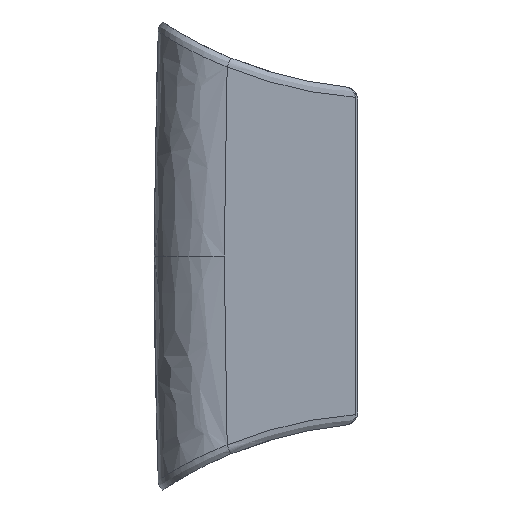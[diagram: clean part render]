
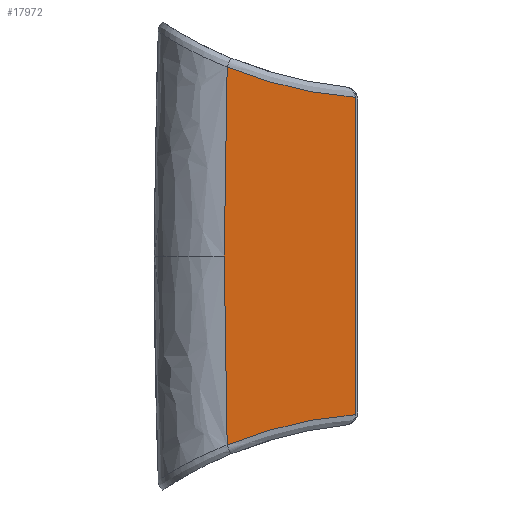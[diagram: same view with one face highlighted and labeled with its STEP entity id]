
A CAD part, left-side view. The second image highlights one B-rep face of the part: STEP entity #17972.
In plain terms, the highlighted planar face has unit normal (-0.999, 0.035, 0).
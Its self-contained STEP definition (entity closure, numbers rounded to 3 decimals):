
#395 = VERTEX_POINT ( 'NONE', #12723 ) ;
#474 = CARTESIAN_POINT ( 'NONE',  ( -47.783, 49.176, 46.767 ) ) ;
#612 = CARTESIAN_POINT ( 'NONE',  ( -49.466, 0.966, -90.375 ) ) ;
#861 = ORIENTED_EDGE ( 'NONE', *, *, #3372, .T. ) ;
#1297 = CARTESIAN_POINT ( 'NONE',  ( -48.343, 33.121, -64.511 ) ) ;
#2347 =( BOUNDED_CURVE ( )  B_SPLINE_CURVE ( 3, ( #4725, #474, #10978, #14156 ),
 .UNSPECIFIED., .F., .T. ) 
 B_SPLINE_CURVE_WITH_KNOTS ( ( 4, 4 ),
 ( 6.252, 6.283 ),
 .UNSPECIFIED. ) 
 CURVE ( )  GEOMETRIC_REPRESENTATION_ITEM ( )  RATIONAL_B_SPLINE_CURVE ( ( 1., 1., 1., 1. ) ) 
 REPRESENTATION_ITEM ( '' )  );
#2664 = CARTESIAN_POINT ( 'NONE',  ( -48.692, 23.138, 62.157 ) ) ;
#2696 = ORIENTED_EDGE ( 'NONE', *, *, #4007, .T. ) ;
#3272 = VECTOR ( 'NONE', #16921, 1000. ) ;
#3372 = EDGE_CURVE ( 'NONE', #5783, #395, #5429, .T. ) ;
#3840 = CARTESIAN_POINT ( 'NONE',  ( -47.808, 48.45, -70.141 ) ) ;
#4007 = EDGE_CURVE ( 'NONE', #395, #19033, #6556, .T. ) ;
#4175 = CARTESIAN_POINT ( 'NONE',  ( -48.657, 24.132, 62.382 ) ) ;
#4200 = CARTESIAN_POINT ( 'NONE',  ( -48.657, 24.133, -62.383 ) ) ;
#4725 = CARTESIAN_POINT ( 'NONE',  ( -47.808, 48.45, 70.141 ) ) ;
#5368 = CARTESIAN_POINT ( 'NONE',  ( -49.466, 0.966, 58.884 ) ) ;
#5429 = B_SPLINE_CURVE_WITH_KNOTS ( 'NONE', 3,
 ( #7200, #19421, #1297, #4200, #10243, #19294, #16288, #19235, #8851, #7267 ),
 .UNSPECIFIED., .F., .F.,
 ( 4, 2, 2, 1, 1, 4 ),
 ( 0., 0.491, 0.553, 0.614, 0.737, 0.983 ),
 .UNSPECIFIED. ) ;
#5592 = ORIENTED_EDGE ( 'NONE', *, *, #10216, .T. ) ;
#5783 = VERTEX_POINT ( 'NONE', #16918 ) ;
#6556 = LINE ( 'NONE', #612, #3272 ) ;
#6945 = DIRECTION ( 'NONE',  ( -0.999, 0.035, 0. ) ) ;
#7174 = CARTESIAN_POINT ( 'NONE',  ( -49.466, 0.966, 58.884 ) ) ;
#7200 = CARTESIAN_POINT ( 'NONE',  ( -47.808, 48.45, -70.141 ) ) ;
#7267 = CARTESIAN_POINT ( 'NONE',  ( -49.466, 0.966, -58.884 ) ) ;
#7638 = ORIENTED_EDGE ( 'NONE', *, *, #10687, .T. ) ;
#8255 = PLANE ( 'NONE',  #8858 ) ;
#8694 = CARTESIAN_POINT ( 'NONE',  ( -48.072, 40.894, 67.019 ) ) ;
#8816 = CARTESIAN_POINT ( 'NONE',  ( -49.324, 5.042, 59.186 ) ) ;
#8851 = CARTESIAN_POINT ( 'NONE',  ( -49.324, 5.041, -59.186 ) ) ;
#8858 = AXIS2_PLACEMENT_3D ( 'NONE', #9785, #6945, #16156 ) ;
#9150 =( BOUNDED_CURVE ( )  B_SPLINE_CURVE ( 3, ( #11538, #18737, #14497, #3840 ),
 .UNSPECIFIED., .F., .F. ) 
 B_SPLINE_CURVE_WITH_KNOTS ( ( 4, 4 ),
 ( 0., 0.031 ),
 .UNSPECIFIED. ) 
 CURVE ( )  GEOMETRIC_REPRESENTATION_ITEM ( )  RATIONAL_B_SPLINE_CURVE ( ( 1., 1., 1., 1. ) ) 
 REPRESENTATION_ITEM ( '' )  );
#9785 = CARTESIAN_POINT ( 'NONE',  ( -49.5, 0., -90.375 ) ) ;
#10089 = CARTESIAN_POINT ( 'NONE',  ( -49.112, 11.119, 59.88 ) ) ;
#10216 = EDGE_CURVE ( 'NONE', #19033, #14932, #12707, .T. ) ;
#10243 = CARTESIAN_POINT ( 'NONE',  ( -48.692, 23.139, -62.157 ) ) ;
#10368 = FACE_OUTER_BOUND ( 'NONE', #12208, .T. ) ;
#10687 = EDGE_CURVE ( 'NONE', #14932, #10699, #2347, .T. ) ;
#10699 = VERTEX_POINT ( 'NONE', #17210 ) ;
#10978 = CARTESIAN_POINT ( 'NONE',  ( -47.77, 49.539, 23.385 ) ) ;
#11538 = CARTESIAN_POINT ( 'NONE',  ( -47.77, 49.539, 0. ) ) ;
#12208 = EDGE_LOOP ( 'NONE', ( #861, #2696, #5592, #7638, #16373 ) ) ;
#12707 = B_SPLINE_CURVE_WITH_KNOTS ( 'NONE', 3,
 ( #7174, #8816, #10089, #13138, #19142, #2664, #4175, #17691, #8694, #16513 ),
 .UNSPECIFIED., .F., .F.,
 ( 4, 1, 1, 2, 2, 4 ),
 ( 0.017, 0.263, 0.386, 0.447, 0.509, 1. ),
 .UNSPECIFIED. ) ;
#12723 = CARTESIAN_POINT ( 'NONE',  ( -49.466, 0.966, -58.884 ) ) ;
#13138 = CARTESIAN_POINT ( 'NONE',  ( -48.866, 18.145, 61.109 ) ) ;
#14156 = CARTESIAN_POINT ( 'NONE',  ( -47.77, 49.539, 0. ) ) ;
#14497 = CARTESIAN_POINT ( 'NONE',  ( -47.783, 49.176, -46.767 ) ) ;
#14932 = VERTEX_POINT ( 'NONE', #16275 ) ;
#16156 = DIRECTION ( 'NONE',  ( -0.035, -0.999, 0. ) ) ;
#16275 = CARTESIAN_POINT ( 'NONE',  ( -47.808, 48.45, 70.141 ) ) ;
#16288 = CARTESIAN_POINT ( 'NONE',  ( -48.866, 18.145, -61.109 ) ) ;
#16373 = ORIENTED_EDGE ( 'NONE', *, *, #16535, .T. ) ;
#16513 = CARTESIAN_POINT ( 'NONE',  ( -47.808, 48.45, 70.141 ) ) ;
#16535 = EDGE_CURVE ( 'NONE', #10699, #5783, #9150, .T. ) ;
#16918 = CARTESIAN_POINT ( 'NONE',  ( -47.808, 48.45, -70.141 ) ) ;
#16921 = DIRECTION ( 'NONE',  ( 0., 0., 1. ) ) ;
#17210 = CARTESIAN_POINT ( 'NONE',  ( -47.77, 49.539, 0. ) ) ;
#17691 = CARTESIAN_POINT ( 'NONE',  ( -48.343, 33.121, 64.511 ) ) ;
#17972 = ADVANCED_FACE ( 'NONE', ( #10368 ), #8255, .T. ) ;
#18737 = CARTESIAN_POINT ( 'NONE',  ( -47.77, 49.539, -23.385 ) ) ;
#19033 = VERTEX_POINT ( 'NONE', #5368 ) ;
#19142 = CARTESIAN_POINT ( 'NONE',  ( -48.762, 21.143, 61.726 ) ) ;
#19235 = CARTESIAN_POINT ( 'NONE',  ( -49.112, 11.117, -59.88 ) ) ;
#19294 = CARTESIAN_POINT ( 'NONE',  ( -48.762, 21.143, -61.726 ) ) ;
#19421 = CARTESIAN_POINT ( 'NONE',  ( -48.072, 40.893, -67.018 ) ) ;
